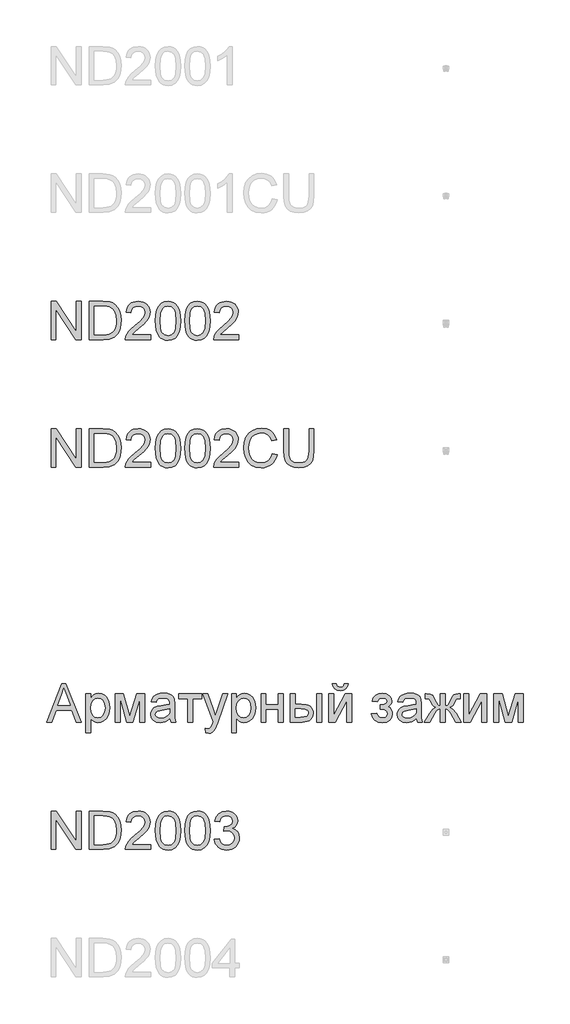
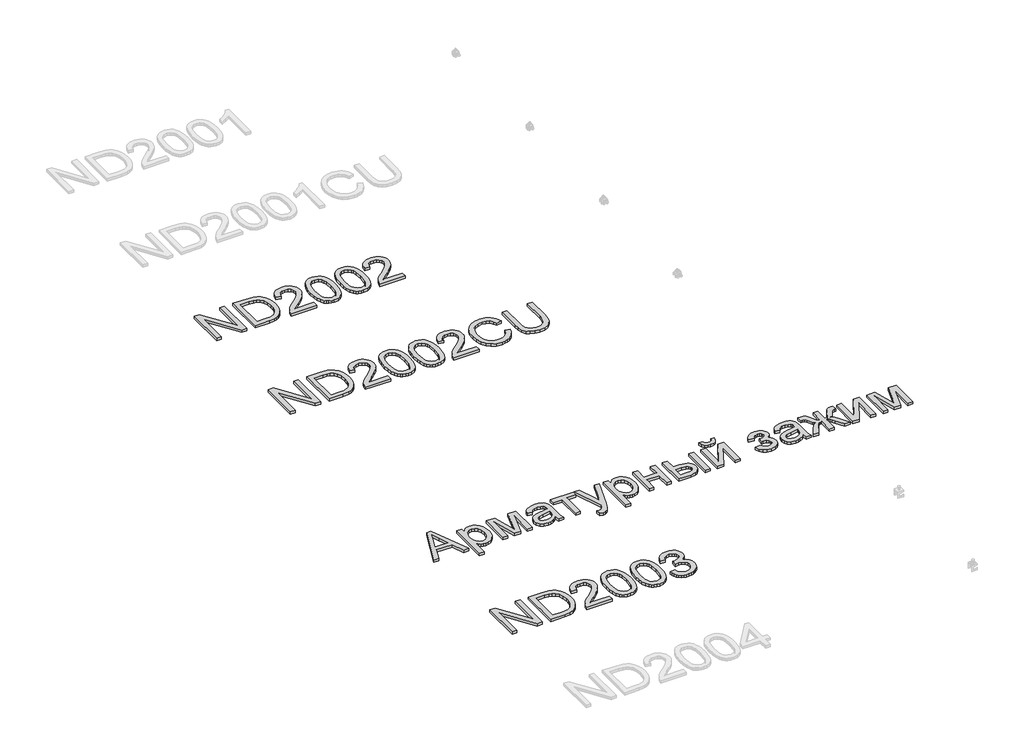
# One storey, part 95 of 124: 4 proxies.
"""IFC4 building model written with IfcOpenShell, lengths in millimetres."""

from ifc_helpers import new_model, si_unit, origin, origin_with_axes, place, context, project, spatial, polyline, outline, extrude, element, save

model = new_model("IFC4")

# Units and contexts
model_context = context("Model", 3, world=origin())
ifc_project = project(units=[si_unit("LENGTHUNIT", "METRE", prefix="MILLI")], contexts=[model_context])

# Site, building, storey
site = spatial("IfcSite", under=ifc_project)
building = spatial("IfcBuilding", under=site)
storey = spatial("IfcBuildingStorey", under=building, Name="Этаж 01", Elevation=0.0)

# Proxies
placement = place(None, origin())
element("IfcBuildingElementProxy", 1, Name="300", ObjectType="300", at=placement, inside=storey, context=model_context, shape_type="SweptSolid", body=[
    extrude(outline(polyline([(14140.1671275, -11519.5141033), (14140.1671275, -11218.1451728), (14180.4869942, -11218.1451728), (14337.9404881, -11456.9005877), (14337.9404881, -11218.1451728), (14375.6116044, -11218.1451728), (14375.6116044, -11519.5141033), (14335.2917378, -11519.5141033), (14177.8382438, -11280.685112), (14177.8382438, -11519.5141033), (14140.1671275, -11519.5141033)])), origin_with_axes(), (0.0, 0.0, 1.0), 20.0),
    extrude(outline(polyline([(14441.536058, -11519.5141033), (14441.536058, -11218.1451728), (14545.4995098, -11218.1451728), (14599.2838575, -11222.4861804), (14623.3065518, -11230.8554957), (14643.5768497, -11244.0440653), (14664.4173648, -11266.9999018), (14679.2614033, -11295.5475446), (14688.1457534, -11329.1351708), (14691.1072035, -11367.2109573), (14689.1022466, -11399.5569817), (14683.087376, -11428.0218511), (14673.9271143, -11452.2560775), (14662.4859843, -11471.9101731), (14649.3158089, -11487.4255962), (14634.968411, -11499.2438053), (14618.4964947, -11508.0085939), (14598.9527637, -11514.3637553), (14550.5027049, -11519.5141033), (14441.536058, -11519.5141033)]), holes=[polyline([(14479.2071743, -11481.842987), (14545.8673918, -11481.842987), (14573.4401473, -11480.4818236), (14594.3542388, -11476.3983334), (14610.1363764, -11469.8316398), (14622.3132704, -11461.020866), (14635.4006724, -11444.7144966), (14645.2323187, -11423.6072671), (14651.3851451, -11397.6072071), (14653.4360872, -11366.6223461), (14649.4169764, -11325.5667154), (14637.359644, -11295.253239), (14619.5449584, -11274.4311181), (14598.2537879, -11261.8495538), (14576.5855384, -11257.3246053), (14544.8373222, -11255.8162891), (14479.2071743, -11255.8162891), (14479.2071743, -11481.842987)])]), origin_with_axes(), (0.0, 0.0, 1.0), 20.0),
    extrude(outline(polyline([(14921.8427909, -11481.842987), (14921.8427909, -11519.5141033), (14724.0694303, -11519.5141033), (14728.1161322, -11493.5416344), (14737.4051526, -11473.2437453), (14750.9983923, -11453.5528615), (14770.661685, -11432.9422727), (14798.1608641, -11409.8852687), (14838.8118246, -11373.7776509), (14863.2024008, -11347.1246003), (14875.397689, -11325.493139), (14879.462785, -11304.4502889), (14875.6276152, -11285.5871396), (14864.1221058, -11269.9061695), (14846.4361789, -11259.3387592), (14824.0597566, -11255.8162891), (14800.5612941, -11259.2559858), (14782.3051501, -11269.5750757), (14770.5237292, -11285.9642186), (14766.4494361, -11307.614074), (14728.7783198, -11302.9051845), (14737.9109903, -11266.4664729), (14746.4573489, -11251.9305355), (14757.6570564, -11239.8502105), (14771.2525954, -11230.3542565), (14786.9864485, -11223.5714322), (14824.869097, -11218.1451728), (14845.0589207, -11219.653489), (14863.0276569, -11224.1784375), (14878.7753056, -11231.7200184), (14892.3018667, -11242.2782317), (14903.1658818, -11255.0713281), (14910.9258927, -11269.3175583), (14915.5818992, -11285.0169225), (14917.1339013, -11302.1694205), (14915.4600383, -11320.1864412), (14910.438449, -11337.8907622), (14901.5265077, -11355.8985859), (14888.1815883, -11374.8261146), (14866.9088119, -11397.4232661), (14834.2132996, -11426.4399585), (14790.8768006, -11462.676335), (14773.8806524, -11481.842987), (14921.8427909, -11481.842987)])), origin_with_axes(), (0.0, 0.0, 1.0), 20.0),
    extrude(outline(polyline([(14959.5139072, -11371.2576592), (14962.2822192, -11323.0191326), (14970.5871552, -11284.5478729), (14984.3459419, -11255.2552691), (15003.4758056, -11234.5527098), (15028.1147022, -11222.2470571), (15058.4005875, -11218.1451728), (15081.6139414, -11220.573194), (15102.3992741, -11227.8572575), (15119.7816984, -11239.7122548), (15132.7863269, -11255.8530773), (15142.6087762, -11276.1417694), (15150.4446627, -11300.4403751), (15155.5766165, -11331.2964775), (15157.2872678, -11371.2576592), (15154.5465469, -11419.2202743), (15146.3243843, -11457.5995635), (15132.6483712, -11486.9197585), (15113.5460986, -11507.7050912), (15088.8520196, -11520.0935174), (15058.4005875, -11524.2229928), (15037.652043, -11522.4295681), (15019.2579432, -11517.0492939), (15003.2182882, -11508.0821703), (14989.533078, -11495.5281972), (14976.3996908, -11472.8344766), (14967.0186999, -11444.5581467), (14961.3901054, -11410.6992076), (14959.5139072, -11371.2576592)]), holes=[polyline([(14997.1850235, -11371.1840828), (15001.5996074, -11430.4406752), (15007.1178374, -11450.7086739), (15014.8433593, -11464.7364742), (15034.5618342, -11481.0980259), (15058.4005875, -11486.5518765), (15082.2393408, -11481.0796318), (15101.9578157, -11464.6628978), (15109.6833376, -11450.6121048), (15115.2015675, -11430.3487047), (15119.6161515, -11371.1840828), (15115.3487203, -11313.2610627), (15110.0144314, -11293.0597426), (15102.5464269, -11278.6985492), (15082.8647402, -11261.5368541), (15057.9591291, -11255.8162891), (15034.3778932, -11260.8562725), (15015.4319705, -11275.9762225), (15007.4489312, -11291.6112072), (15001.7467602, -11312.6908456), (14997.1850235, -11371.1840828)])]), origin_with_axes(), (0.0, 0.0, 1.0), 20.0),
    extrude(outline(polyline([(15190.2494946, -11371.2576592), (15193.0178066, -11323.0191326), (15201.3227426, -11284.5478729), (15215.0815292, -11255.2552691), (15234.211393, -11234.5527098), (15258.8502896, -11222.2470571), (15289.1361749, -11218.1451728), (15312.3495288, -11220.573194), (15333.1348615, -11227.8572575), (15350.5172858, -11239.7122548), (15363.5219143, -11255.8530773), (15373.3443636, -11276.1417694), (15381.1802501, -11300.4403751), (15386.3122039, -11331.2964775), (15388.0228552, -11371.2576592), (15385.2821343, -11419.2202743), (15377.0599717, -11457.5995635), (15363.3839585, -11486.9197585), (15344.2816859, -11507.7050912), (15319.587607, -11520.0935174), (15289.1361749, -11524.2229928), (15268.3876303, -11522.4295681), (15249.9935306, -11517.0492939), (15233.9538756, -11508.0821703), (15220.2686654, -11495.5281972), (15207.1352781, -11472.8344766), (15197.7542873, -11444.5581467), (15192.1256927, -11410.6992076), (15190.2494946, -11371.2576592)]), holes=[polyline([(15227.9206109, -11371.1840828), (15232.3351948, -11430.4406752), (15237.8534247, -11450.7086739), (15245.5789466, -11464.7364742), (15265.2974216, -11481.0980259), (15289.1361749, -11486.5518765), (15312.9749282, -11481.0796318), (15332.6934031, -11464.6628978), (15340.418925, -11450.6121048), (15345.9371549, -11430.3487047), (15350.3517389, -11371.1840828), (15346.0843077, -11313.2610627), (15340.7500188, -11293.0597426), (15333.2820143, -11278.6985492), (15313.6003275, -11261.5368541), (15288.6947165, -11255.8162891), (15265.1134806, -11260.8562725), (15246.1675578, -11275.9762225), (15238.1845185, -11291.6112072), (15232.4823476, -11312.6908456), (15227.9206109, -11371.1840828)])]), origin_with_axes(), (0.0, 0.0, 1.0), 20.0),
    extrude(outline(polyline([(15614.049553, -11481.842987), (15614.049553, -11519.5141033), (15416.2761924, -11519.5141033), (15420.3228943, -11493.5416344), (15429.6119147, -11473.2437453), (15443.2051544, -11453.5528615), (15462.8684471, -11432.9422727), (15490.3676262, -11409.8852687), (15531.0185867, -11373.7776509), (15555.409163, -11347.1246003), (15567.6044511, -11325.493139), (15571.6695472, -11304.4502889), (15567.8343774, -11285.5871396), (15556.328868, -11269.9061695), (15538.642941, -11259.3387592), (15516.2665187, -11255.8162891), (15492.7680562, -11259.2559858), (15474.5119122, -11269.5750757), (15462.7304913, -11285.9642186), (15458.6561982, -11307.614074), (15420.9850819, -11302.9051845), (15430.1177525, -11266.4664729), (15438.6641111, -11251.9305355), (15449.8638186, -11239.8502105), (15463.4593575, -11230.3542565), (15479.1932106, -11223.5714322), (15517.0758591, -11218.1451728), (15537.2656828, -11219.653489), (15555.234419, -11224.1784375), (15570.9820677, -11231.7200184), (15584.5086288, -11242.2782317), (15595.372644, -11255.0713281), (15603.1326548, -11269.3175583), (15607.7886613, -11285.0169225), (15609.3406635, -11302.1694205), (15607.6668004, -11320.1864412), (15602.6452112, -11337.8907622), (15593.7332698, -11355.8985859), (15580.3883504, -11374.8261146), (15559.1155741, -11397.4232661), (15526.4200618, -11426.4399585), (15483.0835627, -11462.676335), (15466.0874145, -11481.842987), (15614.049553, -11481.842987)])), origin_with_axes(), (0.0, 0.0, 1.0), 20.0),
])
element("IfcBuildingElementProxy", 2, Name="300", ObjectType="300", at=placement, inside=storey, context=model_context, shape_type="SweptSolid", body=[
    extrude(outline(polyline([(14140.1671275, -12519.5141033), (14140.1671275, -12218.1451728), (14180.4869942, -12218.1451728), (14337.9404881, -12456.9005877), (14337.9404881, -12218.1451728), (14375.6116044, -12218.1451728), (14375.6116044, -12519.5141033), (14335.2917378, -12519.5141033), (14177.8382438, -12280.685112), (14177.8382438, -12519.5141033), (14140.1671275, -12519.5141033)])), origin_with_axes(), (0.0, 0.0, 1.0), 20.0),
    extrude(outline(polyline([(14441.536058, -12519.5141033), (14441.536058, -12218.1451728), (14545.4995098, -12218.1451728), (14599.2838575, -12222.4861804), (14623.3065518, -12230.8554957), (14643.5768497, -12244.0440653), (14664.4173648, -12266.9999018), (14679.2614033, -12295.5475446), (14688.1457534, -12329.1351708), (14691.1072035, -12367.2109573), (14689.1022466, -12399.5569817), (14683.087376, -12428.0218511), (14673.9271143, -12452.2560775), (14662.4859843, -12471.9101731), (14649.3158089, -12487.4255962), (14634.968411, -12499.2438053), (14618.4964947, -12508.0085939), (14598.9527637, -12514.3637553), (14550.5027049, -12519.5141033), (14441.536058, -12519.5141033)]), holes=[polyline([(14479.2071743, -12481.842987), (14545.8673918, -12481.842987), (14573.4401473, -12480.4818236), (14594.3542388, -12476.3983334), (14610.1363764, -12469.8316398), (14622.3132704, -12461.020866), (14635.4006724, -12444.7144966), (14645.2323187, -12423.6072671), (14651.3851451, -12397.6072071), (14653.4360872, -12366.6223461), (14649.4169764, -12325.5667154), (14637.359644, -12295.253239), (14619.5449584, -12274.4311181), (14598.2537879, -12261.8495538), (14576.5855384, -12257.3246053), (14544.8373222, -12255.8162891), (14479.2071743, -12255.8162891), (14479.2071743, -12481.842987)])]), origin_with_axes(), (0.0, 0.0, 1.0), 20.0),
    extrude(outline(polyline([(14921.8427909, -12481.842987), (14921.8427909, -12519.5141033), (14724.0694303, -12519.5141033), (14728.1161322, -12493.5416344), (14737.4051526, -12473.2437453), (14750.9983923, -12453.5528615), (14770.661685, -12432.9422727), (14798.1608641, -12409.8852687), (14838.8118246, -12373.7776509), (14863.2024008, -12347.1246003), (14875.397689, -12325.493139), (14879.462785, -12304.4502889), (14875.6276152, -12285.5871396), (14864.1221058, -12269.9061695), (14846.4361789, -12259.3387592), (14824.0597566, -12255.8162891), (14800.5612941, -12259.2559858), (14782.3051501, -12269.5750757), (14770.5237292, -12285.9642186), (14766.4494361, -12307.614074), (14728.7783198, -12302.9051845), (14737.9109903, -12266.4664729), (14746.4573489, -12251.9305355), (14757.6570564, -12239.8502105), (14771.2525954, -12230.3542565), (14786.9864485, -12223.5714322), (14824.869097, -12218.1451728), (14845.0589207, -12219.653489), (14863.0276569, -12224.1784375), (14878.7753056, -12231.7200184), (14892.3018667, -12242.2782317), (14903.1658818, -12255.0713281), (14910.9258927, -12269.3175583), (14915.5818992, -12285.0169225), (14917.1339013, -12302.1694205), (14915.4600383, -12320.1864412), (14910.438449, -12337.8907622), (14901.5265077, -12355.8985859), (14888.1815883, -12374.8261146), (14866.9088119, -12397.4232661), (14834.2132996, -12426.4399585), (14790.8768006, -12462.676335), (14773.8806524, -12481.842987), (14921.8427909, -12481.842987)])), origin_with_axes(), (0.0, 0.0, 1.0), 20.0),
    extrude(outline(polyline([(14959.5139072, -12371.2576592), (14962.2822192, -12323.0191326), (14970.5871552, -12284.5478729), (14984.3459419, -12255.2552691), (15003.4758056, -12234.5527098), (15028.1147022, -12222.2470571), (15058.4005875, -12218.1451728), (15081.6139414, -12220.573194), (15102.3992741, -12227.8572575), (15119.7816984, -12239.7122548), (15132.7863269, -12255.8530773), (15142.6087762, -12276.1417694), (15150.4446627, -12300.4403751), (15155.5766165, -12331.2964775), (15157.2872678, -12371.2576592), (15154.5465469, -12419.2202743), (15146.3243843, -12457.5995635), (15132.6483712, -12486.9197585), (15113.5460986, -12507.7050912), (15088.8520196, -12520.0935174), (15058.4005875, -12524.2229928), (15037.652043, -12522.4295681), (15019.2579432, -12517.0492939), (15003.2182882, -12508.0821703), (14989.533078, -12495.5281972), (14976.3996908, -12472.8344766), (14967.0186999, -12444.5581467), (14961.3901054, -12410.6992076), (14959.5139072, -12371.2576592)]), holes=[polyline([(14997.1850235, -12371.1840828), (15001.5996074, -12430.4406752), (15007.1178374, -12450.7086739), (15014.8433593, -12464.7364742), (15034.5618342, -12481.0980259), (15058.4005875, -12486.5518765), (15082.2393408, -12481.0796318), (15101.9578157, -12464.6628978), (15109.6833376, -12450.6121048), (15115.2015675, -12430.3487047), (15119.6161515, -12371.1840828), (15115.3487203, -12313.2610627), (15110.0144314, -12293.0597426), (15102.5464269, -12278.6985492), (15082.8647402, -12261.5368541), (15057.9591291, -12255.8162891), (15034.3778932, -12260.8562725), (15015.4319705, -12275.9762225), (15007.4489312, -12291.6112072), (15001.7467602, -12312.6908456), (14997.1850235, -12371.1840828)])]), origin_with_axes(), (0.0, 0.0, 1.0), 20.0),
    extrude(outline(polyline([(15190.2494946, -12371.2576592), (15193.0178066, -12323.0191326), (15201.3227426, -12284.5478729), (15215.0815292, -12255.2552691), (15234.211393, -12234.5527098), (15258.8502896, -12222.2470571), (15289.1361749, -12218.1451728), (15312.3495288, -12220.573194), (15333.1348615, -12227.8572575), (15350.5172858, -12239.7122548), (15363.5219143, -12255.8530773), (15373.3443636, -12276.1417694), (15381.1802501, -12300.4403751), (15386.3122039, -12331.2964775), (15388.0228552, -12371.2576592), (15385.2821343, -12419.2202743), (15377.0599717, -12457.5995635), (15363.3839585, -12486.9197585), (15344.2816859, -12507.7050912), (15319.587607, -12520.0935174), (15289.1361749, -12524.2229928), (15268.3876303, -12522.4295681), (15249.9935306, -12517.0492939), (15233.9538756, -12508.0821703), (15220.2686654, -12495.5281972), (15207.1352781, -12472.8344766), (15197.7542873, -12444.5581467), (15192.1256927, -12410.6992076), (15190.2494946, -12371.2576592)]), holes=[polyline([(15227.9206109, -12371.1840828), (15232.3351948, -12430.4406752), (15237.8534247, -12450.7086739), (15245.5789466, -12464.7364742), (15265.2974216, -12481.0980259), (15289.1361749, -12486.5518765), (15312.9749282, -12481.0796318), (15332.6934031, -12464.6628978), (15340.418925, -12450.6121048), (15345.9371549, -12430.3487047), (15350.3517389, -12371.1840828), (15346.0843077, -12313.2610627), (15340.7500188, -12293.0597426), (15333.2820143, -12278.6985492), (15313.6003275, -12261.5368541), (15288.6947165, -12255.8162891), (15265.1134806, -12260.8562725), (15246.1675578, -12275.9762225), (15238.1845185, -12291.6112072), (15232.4823476, -12312.6908456), (15227.9206109, -12371.1840828)])]), origin_with_axes(), (0.0, 0.0, 1.0), 20.0),
    extrude(outline(polyline([(15614.049553, -12481.842987), (15614.049553, -12519.5141033), (15416.2761924, -12519.5141033), (15420.3228943, -12493.5416344), (15429.6119147, -12473.2437453), (15443.2051544, -12453.5528615), (15462.8684471, -12432.9422727), (15490.3676262, -12409.8852687), (15531.0185867, -12373.7776509), (15555.409163, -12347.1246003), (15567.6044511, -12325.493139), (15571.6695472, -12304.4502889), (15567.8343774, -12285.5871396), (15556.328868, -12269.9061695), (15538.642941, -12259.3387592), (15516.2665187, -12255.8162891), (15492.7680562, -12259.2559858), (15474.5119122, -12269.5750757), (15462.7304913, -12285.9642186), (15458.6561982, -12307.614074), (15420.9850819, -12302.9051845), (15430.1177525, -12266.4664729), (15438.6641111, -12251.9305355), (15449.8638186, -12239.8502105), (15463.4593575, -12230.3542565), (15479.1932106, -12223.5714322), (15517.0758591, -12218.1451728), (15537.2656828, -12219.653489), (15555.234419, -12224.1784375), (15570.9820677, -12231.7200184), (15584.5086288, -12242.2782317), (15595.372644, -12255.0713281), (15603.1326548, -12269.3175583), (15607.7886613, -12285.0169225), (15609.3406635, -12302.1694205), (15607.6668004, -12320.1864412), (15602.6452112, -12337.8907622), (15593.7332698, -12355.8985859), (15580.3883504, -12374.8261146), (15559.1155741, -12397.4232661), (15526.4200618, -12426.4399585), (15483.0835627, -12462.676335), (15466.0874145, -12481.842987), (15614.049553, -12481.842987)])), origin_with_axes(), (0.0, 0.0, 1.0), 20.0),
    extrude(outline(polyline([(15877.7473671, -12412.3868663), (15915.4184835, -12422.0989509), (15907.9642745, -12445.5261362), (15898.0360592, -12465.99647), (15885.6338374, -12483.5099522), (15870.7576092, -12498.0665829), (15853.743067, -12509.5100123), (15834.9259029, -12517.6838903), (15814.3061171, -12522.5882172), (15791.8837095, -12524.2229928), (15748.1885255, -12519.27498), (15713.4880563, -12504.4309415), (15686.890188, -12480.2059121), (15667.5028069, -12447.1149266), (15655.6662037, -12408.2114056), (15651.7206693, -12366.5487697), (15656.1812385, -12322.6052653), (15669.5629461, -12284.6582375), (15691.1668162, -12253.9124998), (15720.2938732, -12231.5728656), (15754.8379926, -12217.9704289), (15792.6930499, -12213.4362833), (15833.9970009, -12219.3040011), (15851.9657371, -12226.6386484), (15868.1456471, -12236.9071546), (15882.2700164, -12249.8382067), (15894.0721307, -12265.1604918), (15910.7095939, -12302.9787609), (15873.0384776, -12311.9550816), (15859.9786668, -12284.4834936), (15842.13639, -12265.6387384), (15819.2909181, -12254.7402343), (15791.2215219, -12251.1073996), (15758.8663004, -12255.1357074), (15732.2868263, -12267.220631), (15712.1176959, -12286.0929773), (15698.9935057, -12310.4835536), (15691.7922156, -12338.0563091), (15689.3917856, -12366.4751933), (15692.233674, -12401.27683), (15700.7593393, -12431.3695772), (15715.2906781, -12455.6038036), (15736.1495872, -12472.8298781), (15761.1563658, -12483.1213769), (15788.1313131, -12486.5518765), (15819.5760267, -12481.8797752), (15845.7784218, -12467.8634711), (15865.5612761, -12444.6501172), (15877.7473671, -12412.3868663)])), origin_with_axes(), (0.0, 0.0, 1.0), 20.0),
    extrude(outline(polyline([(16164.989629, -12218.1451728), (16202.6607453, -12218.1451728), (16202.6607453, -12392.0062037), (16200.1039654, -12432.7215435), (16192.4336258, -12464.0742866), (16178.1046221, -12488.2625278), (16155.5718499, -12507.484362), (16124.7801269, -12520.0383351), (16085.6742708, -12524.2229928), (16047.4237404, -12520.580961), (16016.8435495, -12509.6548658), (15993.9245012, -12491.8217861), (15978.6573984, -12467.4588009), (15970.0765509, -12434.7816827), (15967.2162684, -12392.0062037), (15967.2162684, -12218.1451728), (16004.8873847, -12218.1451728), (16004.8873847, -12390.6818285), (16006.7451888, -12424.5361692), (16012.318601, -12448.108208), (16022.4169618, -12464.4329715), (16037.8496114, -12476.5454862), (16057.9727566, -12484.0502789), (16082.1426037, -12486.5518765), (16120.4575135, -12481.6038637), (16134.8003128, -12475.4188476), (16145.9333416, -12466.7598252), (16154.2704673, -12454.5829311), (16160.2255571, -12437.8443003), (16164.989629, -12390.6818285), (16164.989629, -12218.1451728)])), origin_with_axes(), (0.0, 0.0, 1.0), 20.0),
])
element("IfcBuildingElementProxy", 3, Name="300", ObjectType="300", at=placement, inside=storey, context=model_context, shape_type="SweptSolid", body=[
    extrude(outline(polyline([(14105.0711852, -14519.5141033), (14225.3685976, -14218.1451728), (14257.4479076, -14218.1451728), (14377.74532, -14519.5141033), (14337.9404881, -14519.5141033), (14303.433157, -14425.3363125), (14179.3097718, -14425.3363125), (14144.8760171, -14519.5141033), (14105.0711852, -14519.5141033)]), holes=[polyline([(14193.1421348, -14387.6651962), (14289.6743704, -14387.6651962), (14262.5246791, -14313.5737624), (14241.4082526, -14255.8162891), (14222.6462708, -14307.0990392), (14193.1421348, -14387.6651962)])]), origin_with_axes(), (0.0, 0.0, 1.0), 20.0),
    extrude(outline(polyline([(14413.2827207, -14604.2741149), (14413.2827207, -14298.196295), (14450.9538371, -14298.196295), (14450.9538371, -14335.1316473), (14463.2410957, -14316.9122915), (14476.9998823, -14303.8984659), (14493.0395373, -14296.0901705), (14512.1694011, -14293.4874054), (14537.6452292, -14297.1294372), (14559.920484, -14308.0555324), (14578.0570664, -14325.6035036), (14591.1168772, -14349.1111631), (14599.007946, -14376.8678596), (14601.6383023, -14407.1629419), (14598.6676552, -14439.3802077), (14589.7557138, -14468.1945649), (14575.1875868, -14492.1436828), (14555.2483827, -14509.7652304), (14532.0258317, -14520.6085522), (14507.6076643, -14524.2229928), (14490.2896194, -14521.8041687), (14474.8293785, -14514.5476963), (14461.5948238, -14503.5940099), (14450.9538371, -14490.0835436), (14450.9538371, -14604.2741149), (14413.2827207, -14604.2741149)]), holes=[polyline([(14450.9538371, -14410.6210327), (14455.0281301, -14444.3925998), (14467.2510094, -14468.0106239), (14485.2864243, -14481.9165634), (14506.7983239, -14486.5518765), (14528.6597115, -14481.7510165), (14547.1549788, -14467.3484363), (14559.7641342, -14442.8658896), (14563.967186, -14407.8251295), (14559.8653017, -14374.2375034), (14547.559649, -14350.2883855), (14529.5518253, -14335.9409877), (14508.3434283, -14331.1585217), (14487.0522578, -14336.2444903), (14468.3546554, -14351.5023961), (14455.3040416, -14376.4539924), (14450.9538371, -14410.6210327)])]), origin_with_axes(), (0.0, 0.0, 1.0), 20.0),
    extrude(outline(polyline([(14644.0183081, -14298.196295), (14708.8391157, -14298.196295), (14758.7974906, -14475.3682638), (14812.6554147, -14298.196295), (14874.7538955, -14298.196295), (14874.7538955, -14519.5141033), (14837.0827792, -14519.5141033), (14837.0827792, -14341.3120648), (14782.9305495, -14519.5141033), (14733.4872093, -14519.5141033), (14681.6894244, -14332.7772025), (14681.6894244, -14519.5141033), (14644.0183081, -14519.5141033), (14644.0183081, -14298.196295)])), origin_with_axes(), (0.0, 0.0, 1.0), 20.0),
    extrude(outline(polyline([(15072.5272561, -14491.260766), (15054.5286295, -14506.6934157), (15035.996574, -14516.7917765), (15016.5080253, -14522.3651887), (14995.6399191, -14524.2229928), (14964.1584174, -14519.7532266), (14940.9358664, -14506.3439278), (14926.6160598, -14485.9816594), (14921.8427909, -14460.652984), (14923.6454127, -14445.0363933), (14929.053278, -14430.8545424), (14937.3950022, -14418.7144366), (14947.9992007, -14409.2230811), (14974.3763398, -14396.8622461), (15006.9706846, -14391.1968633), (15045.4879295, -14385.237175), (15072.3065269, -14378.2474171), (15072.5272561, -14369.8597076), (15069.933688, -14353.0475004), (15062.1529838, -14342.0478288), (15044.7521655, -14333.8808485), (15020.508742, -14331.1585217), (14998.0679403, -14332.9703406), (14982.3961673, -14338.405797), (14971.7091953, -14348.4581726), (14964.2227967, -14364.1207485), (14926.5516804, -14359.411859), (14933.0907829, -14338.8104672), (14942.8488528, -14322.6236594), (14956.7363981, -14310.2444303), (14975.6639268, -14301.0657745), (14998.8129013, -14295.3819977), (15025.3647843, -14293.4874054), (15050.8314154, -14295.1612685), (15071.0189399, -14300.1828577), (15086.2400575, -14307.7336357), (15096.8074678, -14316.9950649), (15103.8156198, -14328.445392), (15108.3589624, -14342.5628636), (15110.1983724, -14375.5250903), (15110.1983724, -14422.3932565), (15112.1113588, -14487.8394635), (15119.6161515, -14519.5141033), (15081.9450352, -14519.5141033), (15072.5272561, -14491.260766)]), holes=[polyline([(15072.5272561, -14415.9185334), (15011.7531505, -14427.4700281), (14979.3427467, -14433.5768692), (14964.6642551, -14443.5096831), (14959.5139072, -14458.0042337), (14962.3190074, -14469.2062404), (14970.734308, -14478.3848962), (14984.5758681, -14484.5101314), (15003.6597466, -14486.5518765), (15023.8932563, -14484.2985993), (15041.7723213, -14477.5387676), (15056.2668719, -14467.5783626), (15066.3468386, -14455.7233653), (15070.8166048, -14443.5096831), (15072.3065269, -14426.5871113), (15072.5272561, -14415.9185334)])]), origin_with_axes(), (0.0, 0.0, 1.0), 20.0),
    extrude(outline(polyline([(15143.1605992, -14298.196295), (15322.0984016, -14298.196295), (15322.0984016, -14335.8674113), (15251.4650586, -14335.8674113), (15251.4650586, -14519.5141033), (15213.7939423, -14519.5141033), (15213.7939423, -14335.8674113), (15143.1605992, -14335.8674113), (15143.1605992, -14298.196295)])), origin_with_axes(), (0.0, 0.0, 1.0), 20.0),
    extrude(outline(polyline([(15355.0606284, -14604.2741149), (15350.3517389, -14568.0009502), (15369.4816026, -14571.3118882), (15387.3606676, -14567.1548216), (15398.323551, -14555.5665388), (15408.6242469, -14527.8282364), (15411.5673029, -14518.7047629), (15331.5161807, -14298.196295), (15371.2474362, -14298.196295), (15413.7010184, -14421.0688814), (15428.4898746, -14470.2179159), (15443.2787308, -14426.8078405), (15486.9095355, -14298.196295), (15526.3464854, -14298.196295), (15449.3119956, -14524.811604), (15429.299215, -14573.9606385), (15419.0537015, -14589.6508056), (15407.4470245, -14600.5217186), (15393.9641494, -14606.867683), (15378.0900413, -14608.9830045), (15355.0606284, -14604.2741149)])), origin_with_axes(), (0.0, 0.0, 1.0), 20.0),
    extrude(outline(polyline([(15557.5428785, -14604.2741149), (15557.5428785, -14298.196295), (15595.2139949, -14298.196295), (15595.2139949, -14335.1316473), (15607.5012535, -14316.9122915), (15621.2600401, -14303.8984659), (15637.2996951, -14296.0901705), (15656.4295588, -14293.4874054), (15681.905387, -14297.1294372), (15704.1806418, -14308.0555324), (15722.3172242, -14325.6035036), (15735.377035, -14349.1111631), (15743.2681038, -14376.8678596), (15745.8984601, -14407.1629419), (15742.927813, -14439.3802077), (15734.0158716, -14468.1945649), (15719.4477446, -14492.1436828), (15699.5085405, -14509.7652304), (15676.2859895, -14520.6085522), (15651.8678221, -14524.2229928), (15634.5497772, -14521.8041687), (15619.0895363, -14514.5476963), (15605.8549816, -14503.5940099), (15595.2139949, -14490.0835436), (15595.2139949, -14604.2741149), (15557.5428785, -14604.2741149)]), holes=[polyline([(15595.2139949, -14410.6210327), (15599.2882879, -14444.3925998), (15611.5111672, -14468.0106239), (15629.5465821, -14481.9165634), (15651.0584817, -14486.5518765), (15672.9198693, -14481.7510165), (15691.4151366, -14467.3484363), (15704.024292, -14442.8658896), (15708.2273438, -14407.8251295), (15704.1254595, -14374.2375034), (15691.8198068, -14350.2883855), (15673.8119831, -14335.9409877), (15652.6035861, -14331.1585217), (15631.3124156, -14336.2444903), (15612.6148132, -14351.5023961), (15599.5641994, -14376.4539924), (15595.2139949, -14410.6210327)])]), origin_with_axes(), (0.0, 0.0, 1.0), 20.0),
    extrude(outline(polyline([(15788.2784659, -14298.196295), (15825.9495822, -14298.196295), (15825.9495822, -14382.9563067), (15924.8362625, -14382.9563067), (15924.8362625, -14298.196295), (15962.5073788, -14298.196295), (15962.5073788, -14519.5141033), (15924.8362625, -14519.5141033), (15924.8362625, -14420.627423), (15825.9495822, -14420.627423), (15825.9495822, -14519.5141033), (15788.2784659, -14519.5141033), (15788.2784659, -14298.196295)])), origin_with_axes(), (0.0, 0.0, 1.0), 20.0),
    extrude(outline(polyline([(16226.205193, -14298.196295), (16263.8763093, -14298.196295), (16263.8763093, -14519.5141033), (16226.205193, -14519.5141033), (16226.205193, -14298.196295)])), origin_with_axes(), (0.0, 0.0, 1.0), 20.0),
    extrude(outline(polyline([(16019.0140533, -14298.196295), (16056.6851696, -14298.196295), (16056.6851696, -14378.2474171), (16103.2590302, -14378.2474171), (16143.5145175, -14382.9655037), (16159.7312157, -14388.8631119), (16173.3405503, -14397.1197635), (16184.1079964, -14407.4503497), (16191.7990294, -14419.5697622), (16196.4136492, -14433.4780009), (16197.9518557, -14449.1750658), (16192.7923108, -14476.131619), (16177.3136758, -14498.8759233), (16165.4517807, -14507.9051271), (16150.5042754, -14514.3545583), (16111.3524341, -14519.5141033), (16019.0140533, -14519.5141033), (16019.0140533, -14298.196295)]), holes=[polyline([(16056.6851696, -14481.842987), (16095.3863555, -14481.842987), (16125.3871322, -14479.8656212), (16145.3447304, -14473.9335241), (16156.5467372, -14463.8075721), (16160.2807394, -14449.2486422), (16157.5124274, -14436.9429894), (16149.2074914, -14426.0720765), (16131.4479881, -14418.4569192), (16100.3159742, -14415.9185334), (16056.6851696, -14415.9185334), (16056.6851696, -14481.842987)])]), origin_with_axes(), (0.0, 0.0, 1.0), 20.0),
    extrude(outline(polyline([(16442.8141117, -14218.1451728), (16471.067449, -14218.1451728), (16464.988199, -14242.2690346), (16452.7837138, -14260.0469321), (16435.0058164, -14271.0006185), (16412.2063297, -14274.6518473), (16387.4662656, -14271.0282096), (16368.2812195, -14260.1572967), (16355.1662264, -14242.4069904), (16348.636321, -14218.1451728), (16376.8896582, -14218.1451728), (16380.8627838, -14230.5519931), (16387.4846597, -14239.3719639), (16396.7920741, -14244.6418735), (16408.8218154, -14246.39851), (16422.396661, -14244.6970558), (16432.2191103, -14239.5926931), (16438.8409862, -14230.8279046), (16442.8141117, -14218.1451728)])), origin_with_axes(), (0.0, 0.0, 1.0), 20.0),
    extrude(outline(polyline([(16320.3829837, -14298.196295), (16358.0541, -14298.196295), (16358.0541, -14466.9805543), (16450.61321, -14298.196295), (16499.3207862, -14298.196295), (16499.3207862, -14519.5141033), (16461.6496699, -14519.5141033), (16461.6496699, -14351.7599135), (16369.6791711, -14519.5141033), (16320.3829837, -14519.5141033), (16320.3829837, -14298.196295)])), origin_with_axes(), (0.0, 0.0, 1.0), 20.0),
    extrude(outline(polyline([(16725.347484, -14420.627423), (16725.347484, -14382.9563067), (16755.0723492, -14381.4847787), (16770.0819346, -14373.6488922), (16775.3794354, -14366.3004493), (16777.145269, -14357.2781434), (16774.7816271, -14346.5635803), (16767.6907017, -14338.2586442), (16756.865774, -14332.9335524), (16743.3001254, -14331.1585217), (16729.587324, -14332.9243553), (16718.1002087, -14338.221856), (16708.8387795, -14347.0510239), (16701.8030363, -14359.411859), (16659.4230305, -14354.7029694), (16670.6618255, -14327.9211602), (16687.7499441, -14308.7912964), (16710.6873865, -14297.3133782), (16739.4741526, -14293.4874054), (16770.9648514, -14298.1503097), (16794.8036047, -14312.1390226), (16809.8131901, -14332.6024586), (16814.8163853, -14356.6895322), (16813.0367561, -14369.0503672), (16807.6978687, -14380.0868271), (16798.7997229, -14389.7989118), (16786.3423188, -14398.1866213), (16800.8828547, -14408.652864), (16811.2479299, -14421.6574925), (16817.4559386, -14437.237295), (16819.5252748, -14455.4290597), (16814.2737593, -14483.1581651), (16798.5192129, -14505.1299172), (16773.3284933, -14519.4497239), (16739.7684582, -14524.2229928), (16706.9441872, -14519.8084089), (16681.827044, -14506.564657), (16664.4170286, -14484.4917373), (16654.714141, -14453.5896497), (16697.0941468, -14448.8807602), (16703.4401112, -14464.8100506), (16714.090295, -14476.692639), (16727.8122934, -14484.0870671), (16743.3737018, -14486.5518765), (16758.53044, -14484.1882347), (16770.891275, -14477.0973092), (16779.1134376, -14466.3275638), (16781.8541585, -14452.9274621), (16780.1527043, -14442.3140666), (16775.0483416, -14433.1354108), (16760.553791, -14422.5404093), (16732.7051239, -14420.4066938), (16725.347484, -14420.627423)])), origin_with_axes(), (0.0, 0.0, 1.0), 20.0),
    extrude(outline(polyline([(17007.8808563, -14491.260766), (16989.8822297, -14506.6934157), (16971.3501742, -14516.7917765), (16951.8616255, -14522.3651887), (16930.9935193, -14524.2229928), (16899.5120176, -14519.7532266), (16876.2894667, -14506.3439278), (16861.96966, -14485.9816594), (16857.1963911, -14460.652984), (16858.9990129, -14445.0363933), (16864.4068782, -14430.8545424), (16872.7486025, -14418.7144366), (16883.352801, -14409.2230811), (16909.72994, -14396.8622461), (16942.3242848, -14391.1968633), (16980.8415297, -14385.237175), (17007.6601271, -14378.2474171), (17007.8808563, -14369.8597076), (17005.2872883, -14353.0475004), (16997.5065841, -14342.0478288), (16980.1057657, -14333.8808485), (16955.8623422, -14331.1585217), (16933.4215405, -14332.9703406), (16917.7497675, -14338.405797), (16907.0627956, -14348.4581726), (16899.576397, -14364.1207485), (16861.9052806, -14359.411859), (16868.4443831, -14338.8104672), (16878.202453, -14322.6236594), (16892.0899983, -14310.2444303), (16911.017527, -14301.0657745), (16934.1665015, -14295.3819977), (16960.7183845, -14293.4874054), (16986.1850157, -14295.1612685), (17006.3725401, -14300.1828577), (17021.5936577, -14307.7336357), (17032.161068, -14316.9950649), (17039.16922, -14328.445392), (17043.7125627, -14342.5628636), (17045.5519726, -14375.5250903), (17045.5519726, -14422.3932565), (17047.464959, -14487.8394635), (17054.9697517, -14519.5141033), (17017.2986354, -14519.5141033), (17007.8808563, -14491.260766)]), holes=[polyline([(17007.8808563, -14415.9185334), (16947.1067507, -14427.4700281), (16914.696347, -14433.5768692), (16900.0178553, -14443.5096831), (16894.8675074, -14458.0042337), (16897.6726076, -14469.2062404), (16906.0879083, -14478.3848962), (16919.9294683, -14484.5101314), (16939.0133468, -14486.5518765), (16959.2468566, -14484.2985993), (16977.1259215, -14477.5387676), (16991.6204721, -14467.5783626), (17001.7004388, -14455.7233653), (17006.1702051, -14443.5096831), (17007.6601271, -14426.5871113), (17007.8808563, -14415.9185334)])]), origin_with_axes(), (0.0, 0.0, 1.0), 20.0),
    extrude(outline(polyline([(17233.9075542, -14298.196295), (17233.9075542, -14392.3740857), (17247.1972912, -14390.4335082), (17255.8701093, -14384.6117756), (17276.655442, -14344.3286972), (17289.6232823, -14319.220751), (17301.4506885, -14305.7010877), (17315.8164804, -14300.0724931), (17336.6937836, -14298.196295), (17351.6297926, -14298.196295), (17351.6297926, -14336.0881405), (17341.2555204, -14335.8674113), (17321.831351, -14339.7669604), (17308.36687, -14364.1943249), (17292.7318852, -14390.9761341), (17270.4014481, -14404.587768), (17282.7944728, -14409.8898672), (17295.0311477, -14419.2478655), (17319.0354479, -14450.131559), (17361.0475717, -14519.5141033), (17317.8582255, -14519.5141033), (17276.5082892, -14451.0880522), (17265.2051149, -14433.1262137), (17255.4286509, -14422.6507739), (17245.5418223, -14417.6015935), (17233.9075542, -14415.9185334), (17233.9075542, -14519.5141033), (17196.2364379, -14519.5141033), (17196.2364379, -14415.9185334), (17184.6941403, -14417.5648053), (17174.7889175, -14422.5036211), (17164.9388771, -14432.9054845), (17153.5621264, -14450.9408994), (17112.2121902, -14519.5141033), (17069.0964203, -14519.5141033), (17110.9613914, -14450.131559), (17135.1496326, -14419.2478655), (17147.4506868, -14409.8898672), (17159.8896967, -14404.587768), (17145.5055107, -14397.3772809), (17136.1980962, -14389.5781826), (17115.8910101, -14350.9505731), (17105.9581962, -14338.221856), (17089.6978121, -14335.6466821), (17078.5141994, -14335.8674113), (17078.5141994, -14298.196295), (17084.1795821, -14298.196295), (17117.2153853, -14300.5507397), (17134.3586863, -14310.55713), (17153.5621264, -14344.3286972), (17174.12673, -14384.3542582), (17182.799548, -14390.3691289), (17196.2364379, -14392.3740857), (17196.2364379, -14298.196295), (17233.9075542, -14298.196295)])), origin_with_axes(), (0.0, 0.0, 1.0), 20.0),
    extrude(outline(polyline([(17379.8831299, -14298.196295), (17417.5542462, -14298.196295), (17417.5542462, -14466.9805543), (17510.1133561, -14298.196295), (17558.8209323, -14298.196295), (17558.8209323, -14519.5141033), (17521.149816, -14519.5141033), (17521.149816, -14351.7599135), (17429.1793172, -14519.5141033), (17379.8831299, -14519.5141033), (17379.8831299, -14298.196295)])), origin_with_axes(), (0.0, 0.0, 1.0), 20.0),
    extrude(outline(polyline([(17615.3276068, -14298.196295), (17680.1484143, -14298.196295), (17730.1067893, -14475.3682638), (17783.9647134, -14298.196295), (17846.0631941, -14298.196295), (17846.0631941, -14519.5141033), (17808.3920778, -14519.5141033), (17808.3920778, -14341.3120648), (17754.2398481, -14519.5141033), (17704.796508, -14519.5141033), (17652.9987231, -14332.7772025), (17652.9987231, -14519.5141033), (17615.3276068, -14519.5141033), (17615.3276068, -14298.196295)])), origin_with_axes(), (0.0, 0.0, 1.0), 20.0),
])
element("IfcBuildingElementProxy", 4, Name="300", ObjectType="300", at=placement, inside=storey, context=model_context, shape_type="SweptSolid", body=[
    extrude(outline(polyline([(14140.1671275, -15519.5141033), (14140.1671275, -15218.1451728), (14180.4869942, -15218.1451728), (14337.9404881, -15456.9005877), (14337.9404881, -15218.1451728), (14375.6116044, -15218.1451728), (14375.6116044, -15519.5141033), (14335.2917378, -15519.5141033), (14177.8382438, -15280.685112), (14177.8382438, -15519.5141033), (14140.1671275, -15519.5141033)])), origin_with_axes(), (0.0, 0.0, 1.0), 20.0),
    extrude(outline(polyline([(14441.536058, -15519.5141033), (14441.536058, -15218.1451728), (14545.4995098, -15218.1451728), (14599.2838575, -15222.4861804), (14623.3065518, -15230.8554957), (14643.5768497, -15244.0440653), (14664.4173648, -15266.9999018), (14679.2614033, -15295.5475446), (14688.1457534, -15329.1351708), (14691.1072035, -15367.2109573), (14689.1022466, -15399.5569817), (14683.087376, -15428.0218511), (14673.9271143, -15452.2560775), (14662.4859843, -15471.9101731), (14649.3158089, -15487.4255962), (14634.968411, -15499.2438053), (14618.4964947, -15508.0085939), (14598.9527637, -15514.3637553), (14550.5027049, -15519.5141033), (14441.536058, -15519.5141033)]), holes=[polyline([(14479.2071743, -15481.842987), (14545.8673918, -15481.842987), (14573.4401473, -15480.4818236), (14594.3542388, -15476.3983334), (14610.1363764, -15469.8316398), (14622.3132704, -15461.020866), (14635.4006724, -15444.7144966), (14645.2323187, -15423.6072671), (14651.3851451, -15397.6072071), (14653.4360872, -15366.6223461), (14649.4169764, -15325.5667154), (14637.359644, -15295.253239), (14619.5449584, -15274.4311181), (14598.2537879, -15261.8495538), (14576.5855384, -15257.3246053), (14544.8373222, -15255.8162891), (14479.2071743, -15255.8162891), (14479.2071743, -15481.842987)])]), origin_with_axes(), (0.0, 0.0, 1.0), 20.0),
    extrude(outline(polyline([(14921.8427909, -15481.842987), (14921.8427909, -15519.5141033), (14724.0694303, -15519.5141033), (14728.1161322, -15493.5416344), (14737.4051526, -15473.2437453), (14750.9983923, -15453.5528615), (14770.661685, -15432.9422727), (14798.1608641, -15409.8852687), (14838.8118246, -15373.7776509), (14863.2024008, -15347.1246003), (14875.397689, -15325.493139), (14879.462785, -15304.4502889), (14875.6276152, -15285.5871396), (14864.1221058, -15269.9061695), (14846.4361789, -15259.3387592), (14824.0597566, -15255.8162891), (14800.5612941, -15259.2559858), (14782.3051501, -15269.5750757), (14770.5237292, -15285.9642186), (14766.4494361, -15307.614074), (14728.7783198, -15302.9051845), (14737.9109903, -15266.4664729), (14746.4573489, -15251.9305355), (14757.6570564, -15239.8502105), (14771.2525954, -15230.3542565), (14786.9864485, -15223.5714322), (14824.869097, -15218.1451728), (14845.0589207, -15219.653489), (14863.0276569, -15224.1784375), (14878.7753056, -15231.7200184), (14892.3018667, -15242.2782317), (14903.1658818, -15255.0713281), (14910.9258927, -15269.3175583), (14915.5818992, -15285.0169225), (14917.1339013, -15302.1694205), (14915.4600383, -15320.1864412), (14910.438449, -15337.8907622), (14901.5265077, -15355.8985859), (14888.1815883, -15374.8261146), (14866.9088119, -15397.4232661), (14834.2132996, -15426.4399585), (14790.8768006, -15462.676335), (14773.8806524, -15481.842987), (14921.8427909, -15481.842987)])), origin_with_axes(), (0.0, 0.0, 1.0), 20.0),
    extrude(outline(polyline([(14959.5139072, -15371.2576592), (14962.2822192, -15323.0191326), (14970.5871552, -15284.5478729), (14984.3459419, -15255.2552691), (15003.4758056, -15234.5527098), (15028.1147022, -15222.2470571), (15058.4005875, -15218.1451728), (15081.6139414, -15220.573194), (15102.3992741, -15227.8572575), (15119.7816984, -15239.7122548), (15132.7863269, -15255.8530773), (15142.6087762, -15276.1417694), (15150.4446627, -15300.4403751), (15155.5766165, -15331.2964775), (15157.2872678, -15371.2576592), (15154.5465469, -15419.2202743), (15146.3243843, -15457.5995635), (15132.6483712, -15486.9197585), (15113.5460986, -15507.7050912), (15088.8520196, -15520.0935174), (15058.4005875, -15524.2229928), (15037.652043, -15522.4295681), (15019.2579432, -15517.0492939), (15003.2182882, -15508.0821703), (14989.533078, -15495.5281972), (14976.3996908, -15472.8344766), (14967.0186999, -15444.5581467), (14961.3901054, -15410.6992076), (14959.5139072, -15371.2576592)]), holes=[polyline([(14997.1850235, -15371.1840828), (15001.5996074, -15430.4406752), (15007.1178374, -15450.7086739), (15014.8433593, -15464.7364742), (15034.5618342, -15481.0980259), (15058.4005875, -15486.5518765), (15082.2393408, -15481.0796318), (15101.9578157, -15464.6628978), (15109.6833376, -15450.6121048), (15115.2015675, -15430.3487047), (15119.6161515, -15371.1840828), (15115.3487203, -15313.2610627), (15110.0144314, -15293.0597426), (15102.5464269, -15278.6985492), (15082.8647402, -15261.5368541), (15057.9591291, -15255.8162891), (15034.3778932, -15260.8562725), (15015.4319705, -15275.9762225), (15007.4489312, -15291.6112072), (15001.7467602, -15312.6908456), (14997.1850235, -15371.1840828)])]), origin_with_axes(), (0.0, 0.0, 1.0), 20.0),
    extrude(outline(polyline([(15190.2494946, -15371.2576592), (15193.0178066, -15323.0191326), (15201.3227426, -15284.5478729), (15215.0815292, -15255.2552691), (15234.211393, -15234.5527098), (15258.8502896, -15222.2470571), (15289.1361749, -15218.1451728), (15312.3495288, -15220.573194), (15333.1348615, -15227.8572575), (15350.5172858, -15239.7122548), (15363.5219143, -15255.8530773), (15373.3443636, -15276.1417694), (15381.1802501, -15300.4403751), (15386.3122039, -15331.2964775), (15388.0228552, -15371.2576592), (15385.2821343, -15419.2202743), (15377.0599717, -15457.5995635), (15363.3839585, -15486.9197585), (15344.2816859, -15507.7050912), (15319.587607, -15520.0935174), (15289.1361749, -15524.2229928), (15268.3876303, -15522.4295681), (15249.9935306, -15517.0492939), (15233.9538756, -15508.0821703), (15220.2686654, -15495.5281972), (15207.1352781, -15472.8344766), (15197.7542873, -15444.5581467), (15192.1256927, -15410.6992076), (15190.2494946, -15371.2576592)]), holes=[polyline([(15227.9206109, -15371.1840828), (15232.3351948, -15430.4406752), (15237.8534247, -15450.7086739), (15245.5789466, -15464.7364742), (15265.2974216, -15481.0980259), (15289.1361749, -15486.5518765), (15312.9749282, -15481.0796318), (15332.6934031, -15464.6628978), (15340.418925, -15450.6121048), (15345.9371549, -15430.3487047), (15350.3517389, -15371.1840828), (15346.0843077, -15313.2610627), (15340.7500188, -15293.0597426), (15333.2820143, -15278.6985492), (15313.6003275, -15261.5368541), (15288.6947165, -15255.8162891), (15265.1134806, -15260.8562725), (15246.1675578, -15275.9762225), (15238.1845185, -15291.6112072), (15232.4823476, -15312.6908456), (15227.9206109, -15371.1840828)])]), origin_with_axes(), (0.0, 0.0, 1.0), 20.0),
    extrude(outline(polyline([(15420.9850819, -15439.4629811), (15458.6561982, -15434.7540916), (15467.089893, -15458.427298), (15479.441531, -15474.4117707), (15496.3181175, -15483.51685), (15518.3266579, -15486.5518765), (15544.1519739, -15482.3764158), (15564.0911781, -15469.8500339), (15576.8382892, -15451.1616286), (15581.0873262, -15428.5000977), (15576.8750774, -15406.988198), (15564.2383309, -15389.5413944), (15545.1084671, -15377.9807027), (15521.4168666, -15374.1271388), (15495.0029394, -15378.2474171), (15499.1967941, -15340.5763008), (15505.2300588, -15341.0177592), (15527.7996192, -15338.3138265), (15547.9779467, -15330.2020285), (15562.2149799, -15316.4800301), (15566.9606576, -15296.9454962), (15563.520961, -15280.6759149), (15553.201871, -15267.4781484), (15537.4565216, -15258.7317539), (15517.7380467, -15255.8162891), (15497.9827835, -15258.7593451), (15481.8327639, -15267.588513), (15470.042146, -15282.3037928), (15463.3650878, -15302.9051845), (15425.6939715, -15298.196295), (15436.7856136, -15264.3695455), (15456.5224827, -15239.1144465), (15483.5250211, -15223.3874912), (15516.4136715, -15218.1451728), (15540.0960749, -15220.7295438), (15561.8470979, -15228.4826569), (15580.1860153, -15240.7147332), (15593.6321023, -15256.7359941), (15601.881856, -15275.1944732), (15604.6317739, -15294.7382042), (15602.0198118, -15312.948363), (15594.1839253, -15329.4662646), (15581.234479, -15343.5377509), (15563.2818377, -15354.4086638), (15586.8630736, -15363.9368075), (15604.3374683, -15380.1604035), (15615.153199, -15402.196535), (15618.7584425, -15429.1622852), (15616.9558208, -15448.2737549), (15611.5479554, -15465.8769084), (15602.5348466, -15481.9717457), (15589.9164941, -15496.5582668), (15574.5436252, -15508.6615844), (15557.266967, -15517.3068113), (15538.0865195, -15522.4939474), (15517.0022827, -15524.2229928), (15497.9459953, -15522.7468663), (15480.5819652, -15518.3184868), (15464.9101922, -15510.9378542), (15450.9306763, -15500.6049687), (15439.2090363, -15487.9268354), (15430.3108905, -15473.5104598), (15424.2362391, -15457.3558417), (15420.9850819, -15439.4629811)])), origin_with_axes(), (0.0, 0.0, 1.0), 20.0),
])

save(model, "model.ifc")
